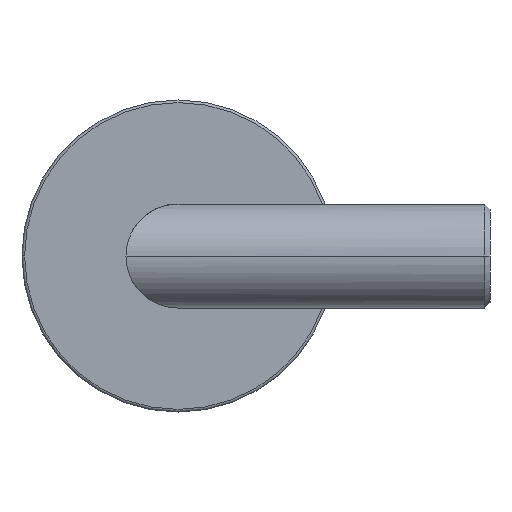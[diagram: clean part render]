
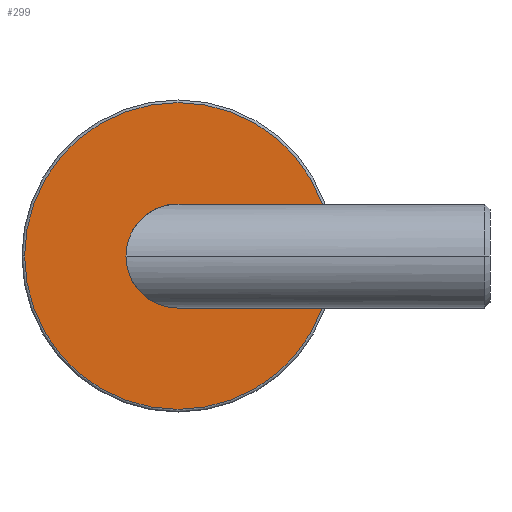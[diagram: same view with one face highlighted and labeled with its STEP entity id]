
A CAD part, left-side view. The second image highlights one B-rep face of the part: STEP entity #299.
In plain terms, the highlighted planar face has unit normal (-1, 0, 0).
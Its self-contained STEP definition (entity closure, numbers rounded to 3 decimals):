
#101=CARTESIAN_POINT('',(283.,60.,0.));
#102=DIRECTION('',(-1.,0.,0.));
#103=DIRECTION('',(0.,-1.,0.));
#104=AXIS2_PLACEMENT_3D('',#101,#102,#103);
#110=CARTESIAN_POINT('',(283.,60.,0.));
#111=DIRECTION('',(-1.,0.,0.));
#112=DIRECTION('',(0.,-1.,0.));
#113=AXIS2_PLACEMENT_3D('',#110,#111,#112);
#115=CARTESIAN_POINT('',(283.,60.,0.));
#116=DIRECTION('',(-1.,0.,0.));
#117=DIRECTION('',(0.,1.,0.));
#118=AXIS2_PLACEMENT_3D('',#115,#116,#117);
#158=CARTESIAN_POINT('',(283.,60.,0.));
#159=DIRECTION('',(-1.,0.,0.));
#160=DIRECTION('',(0.,1.,0.));
#161=AXIS2_PLACEMENT_3D('',#158,#159,#160);
#183=CARTESIAN_POINT('',(283.,30.5,0.));
#184=CARTESIAN_POINT('',(283.,89.5,0.));
#185=VERTEX_POINT('',#183);
#186=VERTEX_POINT('',#184);
#191=CARTESIAN_POINT('',(283.,50.,0.));
#192=CARTESIAN_POINT('',(283.,70.,0.));
#193=VERTEX_POINT('',#191);
#194=VERTEX_POINT('',#192);
#283=CARTESIAN_POINT('',(283.,60.,0.));
#284=DIRECTION('',(-1.,0.,0.));
#285=DIRECTION('',(0.,1.,0.));
#286=AXIS2_PLACEMENT_3D('',#283,#284,#285);
#287=PLANE('',#286);
#289=ORIENTED_EDGE('',*,*,#288,.F.);
#291=ORIENTED_EDGE('',*,*,#290,.F.);
#292=EDGE_LOOP('',(#289,#291));
#293=FACE_OUTER_BOUND('',#292,.F.);
#294=ORIENTED_EDGE('',*,*,#272,.T.);
#296=ORIENTED_EDGE('',*,*,#295,.T.);
#297=EDGE_LOOP('',(#294,#296));
#298=FACE_BOUND('',#297,.F.);
#299=ADVANCED_FACE('',(#293,#298),#287,.T.);
#105=CIRCLE('',#104,10.);
#114=CIRCLE('',#113,29.5);
#119=CIRCLE('',#118,29.5);
#162=CIRCLE('',#161,10.);
#272=EDGE_CURVE('',#193,#194,#105,.T.);
#288=EDGE_CURVE('',#185,#186,#114,.T.);
#290=EDGE_CURVE('',#186,#185,#119,.T.);
#295=EDGE_CURVE('',#194,#193,#162,.T.);
